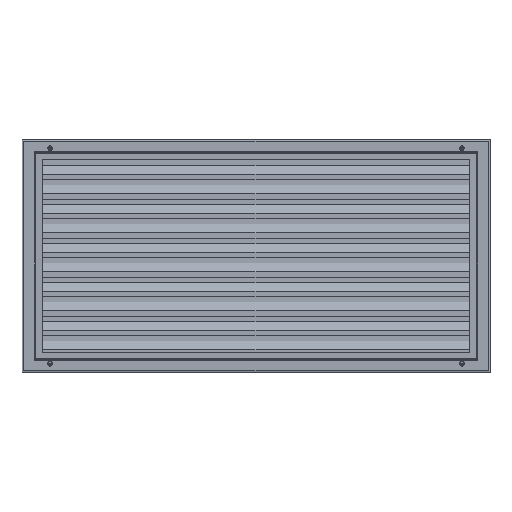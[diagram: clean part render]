
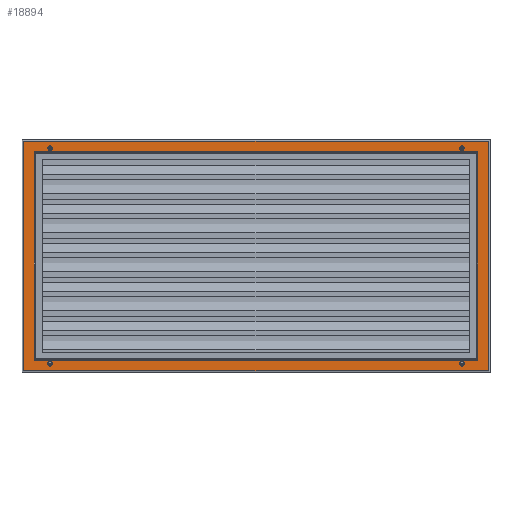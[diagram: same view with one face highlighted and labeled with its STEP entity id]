
A CAD part, top view. The second image highlights one B-rep face of the part: STEP entity #18894.
In plain terms, the highlighted planar face has unit normal (0, 0, 1).
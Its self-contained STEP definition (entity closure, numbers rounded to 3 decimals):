
#32846 = EDGE_CURVE ( 'NONE', #35079, #32294, #34247, .T. ) ;
#189 = VERTEX_POINT ( 'NONE', #26205 ) ;
#16799 = EDGE_LOOP ( 'NONE', ( #15483, #14177, #12872, #11586 ) ) ;
#478 = LINE ( 'NONE', #479, #480 ) ;
#479 = CARTESIAN_POINT ( 'NONE',  ( -284.5, 0., 14.5 ) ) ;
#480 = VECTOR ( 'NONE', #481, 1000. ) ;
#16852 = ORIENTED_EDGE ( 'NONE', *, *, #30664, .F. ) ;
#481 = DIRECTION ( 'NONE',  ( 0., -1., 0. ) ) ;
#33409 = CARTESIAN_POINT ( 'NONE',  ( 264., 135.2, 14.5 ) ) ;
#697 = EDGE_CURVE ( 'NONE', #2934, #7742, #26852, .T. ) ;
#17405 = ORIENTED_EDGE ( 'NONE', *, *, #27591, .F. ) ;
#1440 = CIRCLE ( 'NONE', #1441, 3. ) ;
#1441 = AXIS2_PLACEMENT_3D ( 'NONE', #1442, #1443, #1444 ) ;
#1442 = CARTESIAN_POINT ( 'NONE',  ( 264., -138.2, 14.5 ) ) ;
#1443 = DIRECTION ( 'NONE',  ( 0., 0., 1. ) ) ;
#1444 = DIRECTION ( 'NONE',  ( 0., -1., 0. ) ) ;
#34247 = CIRCLE ( 'NONE', #34248, 3. ) ;
#34248 = AXIS2_PLACEMENT_3D ( 'NONE', #34276, #34277, #34278 ) ;
#34276 = CARTESIAN_POINT ( 'NONE',  ( 264., 138.2, 14.5 ) ) ;
#34277 = DIRECTION ( 'NONE',  ( 0., 0., 1. ) ) ;
#34278 = DIRECTION ( 'NONE',  ( 0., -1., 0. ) ) ;
#1619 = ORIENTED_EDGE ( 'NONE', *, *, #697, .T. ) ;
#18292 = EDGE_LOOP ( 'NONE', ( #16852, #15620 ) ) ;
#35079 = VERTEX_POINT ( 'NONE', #38003 ) ;
#18894 = ADVANCED_FACE ( 'NONE', ( #10477, #10478, #10479, #10480, #10481, #10482 ), #10483, .T. ) ;
#35510 = VERTEX_POINT ( 'NONE', #38848 ) ;
#19137 = VERTEX_POINT ( 'NONE', #10901 ) ;
#2934 = VERTEX_POINT ( 'NONE', #30397 ) ;
#3070 = EDGE_CURVE ( 'NONE', #32294, #35079, #30682, .T. ) ;
#19704 = EDGE_CURVE ( 'NONE', #20622, #19137, #11815, .T. ) ;
#3491 = EDGE_CURVE ( 'NONE', #25481, #2934, #31302, .T. ) ;
#36403 = VERTEX_POINT ( 'NONE', #40333 ) ;
#20233 = CARTESIAN_POINT ( 'NONE',  ( -267., 138.2, 14.5 ) ) ;
#36937 = CARTESIAN_POINT ( 'NONE',  ( -298., 147.2, 14.5 ) ) ;
#36956 = EDGE_CURVE ( 'NONE', #39183, #36403, #41221, .T. ) ;
#20622 = VERTEX_POINT ( 'NONE', #13361 ) ;
#4397 = ORIENTED_EDGE ( 'NONE', *, *, #3491, .T. ) ;
#20972 = VERTEX_POINT ( 'NONE', #14203 ) ;
#37709 = CARTESIAN_POINT ( 'NONE',  ( 298., 147.2, 14.5 ) ) ;
#21354 = EDGE_CURVE ( 'NONE', #20972, #20622, #15111, .T. ) ;
#38003 = CARTESIAN_POINT ( 'NONE',  ( 264., 141.2, 14.5 ) ) ;
#38587 = LINE ( 'NONE', #38588, #38589 ) ;
#38588 = CARTESIAN_POINT ( 'NONE',  ( 0., 147.2, 14.5 ) ) ;
#38589 = VECTOR ( 'NONE', #38590, 1000. ) ;
#38590 = DIRECTION ( 'NONE',  ( -1., 0., 0. ) ) ;
#5893 = ORIENTED_EDGE ( 'NONE', *, *, #25856, .T. ) ;
#38848 = CARTESIAN_POINT ( 'NONE',  ( 264., -135.2, 14.5 ) ) ;
#38853 = EDGE_CURVE ( 'NONE', #36403, #39183, #44082, .T. ) ;
#39183 = VERTEX_POINT ( 'NONE', #44550 ) ;
#6860 = ORIENTED_EDGE ( 'NONE', *, *, #44187, .F. ) ;
#23350 = CARTESIAN_POINT ( 'NONE',  ( -298., -147.2, 14.5 ) ) ;
#23485 = VERTEX_POINT ( 'NONE', #20233 ) ;
#7184 = VERTEX_POINT ( 'NONE', #36937 ) ;
#7261 = CIRCLE ( 'NONE', #7262, 3. ) ;
#7262 = AXIS2_PLACEMENT_3D ( 'NONE', #7263, #7264, #7265 ) ;
#7263 = CARTESIAN_POINT ( 'NONE',  ( -264., 138.2, 14.5 ) ) ;
#7264 = DIRECTION ( 'NONE',  ( 0., 0., 1. ) ) ;
#7265 = DIRECTION ( 'NONE',  ( 1., 0., 0. ) ) ;
#40333 = CARTESIAN_POINT ( 'NONE',  ( -261., -138.2, 14.5 ) ) ;
#24028 = LINE ( 'NONE', #24029, #24030 ) ;
#24029 = CARTESIAN_POINT ( 'NONE',  ( -298., 0., 14.5 ) ) ;
#24030 = VECTOR ( 'NONE', #24031, 1000. ) ;
#24031 = DIRECTION ( 'NONE',  ( 0., -1., 0. ) ) ;
#7742 = VERTEX_POINT ( 'NONE', #37709 ) ;
#8174 = EDGE_LOOP ( 'NONE', ( #6860, #17405 ) ) ;
#40964 = CARTESIAN_POINT ( 'NONE',  ( -284.5, 133.7, 14.5 ) ) ;
#8318 = EDGE_CURVE ( 'NONE', #7742, #7184, #38587, .T. ) ;
#41221 = CIRCLE ( 'NONE', #41222, 3. ) ;
#41222 = AXIS2_PLACEMENT_3D ( 'NONE', #41223, #41224, #41225 ) ;
#41223 = CARTESIAN_POINT ( 'NONE',  ( -264., -138.2, 14.5 ) ) ;
#41224 = DIRECTION ( 'NONE',  ( 0., 0., 1. ) ) ;
#41225 = DIRECTION ( 'NONE',  ( 1., 0., 0. ) ) ;
#8797 = ORIENTED_EDGE ( 'NONE', *, *, #32846, .F. ) ;
#25321 = CARTESIAN_POINT ( 'NONE',  ( -261., 138.2, 14.5 ) ) ;
#25481 = VERTEX_POINT ( 'NONE', #23350 ) ;
#41915 = LINE ( 'NONE', #41916, #41917 ) ;
#41916 = CARTESIAN_POINT ( 'NONE',  ( 0., 133.7, 14.5 ) ) ;
#41917 = VECTOR ( 'NONE', #41918, 1000. ) ;
#41918 = DIRECTION ( 'NONE',  ( -1., 0., 0. ) ) ;
#9260 = ORIENTED_EDGE ( 'NONE', *, *, #8318, .T. ) ;
#25856 = EDGE_CURVE ( 'NONE', #7184, #25481, #24028, .T. ) ;
#25945 = CIRCLE ( 'NONE', #25946, 3. ) ;
#25946 = AXIS2_PLACEMENT_3D ( 'NONE', #25947, #25948, #25949 ) ;
#25947 = CARTESIAN_POINT ( 'NONE',  ( -264., 138.2, 14.5 ) ) ;
#25948 = DIRECTION ( 'NONE',  ( 0., 0., 1. ) ) ;
#25949 = DIRECTION ( 'NONE',  ( 1., 0., 0. ) ) ;
#9807 = VERTEX_POINT ( 'NONE', #40964 ) ;
#26205 = CARTESIAN_POINT ( 'NONE',  ( 264., -141.2, 14.5 ) ) ;
#10105 = ORIENTED_EDGE ( 'NONE', *, *, #3070, .F. ) ;
#10379 = EDGE_CURVE ( 'NONE', #19137, #9807, #41915, .T. ) ;
#10477 = FACE_BOUND ( 'NONE', #18292, .T. ) ;
#10478 = FACE_BOUND ( 'NONE', #15011, .T. ) ;
#10479 = FACE_BOUND ( 'NONE', #11398, .T. ) ;
#10480 = FACE_BOUND ( 'NONE', #8174, .T. ) ;
#26852 = LINE ( 'NONE', #26853, #26854 ) ;
#26853 = CARTESIAN_POINT ( 'NONE',  ( 298., 0., 14.5 ) ) ;
#26854 = VECTOR ( 'NONE', #26855, 1000. ) ;
#26855 = DIRECTION ( 'NONE',  ( 0., 1., 0. ) ) ;
#10481 = FACE_BOUND ( 'NONE', #16799, .T. ) ;
#10482 = FACE_OUTER_BOUND ( 'NONE', #10966, .T. ) ;
#10483 = PLANE ( 'NONE',  #10484 ) ;
#10484 = AXIS2_PLACEMENT_3D ( 'NONE', #10485, #10486, #10487 ) ;
#10485 = CARTESIAN_POINT ( 'NONE',  ( -309.92, -153.088, 14.5 ) ) ;
#10486 = DIRECTION ( 'NONE',  ( 0., 0., 1. ) ) ;
#10487 = DIRECTION ( 'NONE',  ( 1., 0., 0. ) ) ;
#27020 = VERTEX_POINT ( 'NONE', #25321 ) ;
#10901 = CARTESIAN_POINT ( 'NONE',  ( 284.5, 133.7, 14.5 ) ) ;
#10966 = EDGE_LOOP ( 'NONE', ( #9260, #5893, #4397, #1619 ) ) ;
#27591 = EDGE_CURVE ( 'NONE', #23485, #27020, #25945, .T. ) ;
#44082 = CIRCLE ( 'NONE', #44083, 3. ) ;
#44083 = AXIS2_PLACEMENT_3D ( 'NONE', #44084, #44085, #44086 ) ;
#44084 = CARTESIAN_POINT ( 'NONE',  ( -264., -138.2, 14.5 ) ) ;
#44085 = DIRECTION ( 'NONE',  ( 0., 0., 1. ) ) ;
#44086 = DIRECTION ( 'NONE',  ( 1., 0., 0. ) ) ;
#11398 = EDGE_LOOP ( 'NONE', ( #10105, #8797 ) ) ;
#44187 = EDGE_CURVE ( 'NONE', #27020, #23485, #7261, .T. ) ;
#11586 = ORIENTED_EDGE ( 'NONE', *, *, #12593, .F. ) ;
#44550 = CARTESIAN_POINT ( 'NONE',  ( -267., -138.2, 14.5 ) ) ;
#11815 = LINE ( 'NONE', #11816, #11817 ) ;
#11816 = CARTESIAN_POINT ( 'NONE',  ( 284.5, 0., 14.5 ) ) ;
#11817 = VECTOR ( 'NONE', #11818, 1000. ) ;
#11818 = DIRECTION ( 'NONE',  ( 0., 1., 0. ) ) ;
#11985 = ORIENTED_EDGE ( 'NONE', *, *, #36956, .F. ) ;
#12593 = EDGE_CURVE ( 'NONE', #9807, #20972, #478, .T. ) ;
#12872 = ORIENTED_EDGE ( 'NONE', *, *, #21354, .F. ) ;
#13201 = EDGE_CURVE ( 'NONE', #35510, #189, #1440, .T. ) ;
#13299 = ORIENTED_EDGE ( 'NONE', *, *, #38853, .F. ) ;
#13361 = CARTESIAN_POINT ( 'NONE',  ( 284.5, -133.7, 14.5 ) ) ;
#30397 = CARTESIAN_POINT ( 'NONE',  ( 298., -147.2, 14.5 ) ) ;
#14177 = ORIENTED_EDGE ( 'NONE', *, *, #19704, .F. ) ;
#14203 = CARTESIAN_POINT ( 'NONE',  ( -284.5, -133.7, 14.5 ) ) ;
#30664 = EDGE_CURVE ( 'NONE', #189, #35510, #30890, .T. ) ;
#30682 = CIRCLE ( 'NONE', #30683, 3. ) ;
#30683 = AXIS2_PLACEMENT_3D ( 'NONE', #30684, #30685, #30686 ) ;
#30684 = CARTESIAN_POINT ( 'NONE',  ( 264., 138.2, 14.5 ) ) ;
#30685 = DIRECTION ( 'NONE',  ( 0., 0., 1. ) ) ;
#30686 = DIRECTION ( 'NONE',  ( 0., -1., 0. ) ) ;
#30890 = CIRCLE ( 'NONE', #30891, 3. ) ;
#30891 = AXIS2_PLACEMENT_3D ( 'NONE', #30892, #30893, #30894 ) ;
#30892 = CARTESIAN_POINT ( 'NONE',  ( 264., -138.2, 14.5 ) ) ;
#30893 = DIRECTION ( 'NONE',  ( 0., 0., 1. ) ) ;
#30894 = DIRECTION ( 'NONE',  ( 0., -1., 0. ) ) ;
#31302 = LINE ( 'NONE', #31303, #31304 ) ;
#31303 = CARTESIAN_POINT ( 'NONE',  ( 0., -147.2, 14.5 ) ) ;
#31304 = VECTOR ( 'NONE', #31337, 1000. ) ;
#31337 = DIRECTION ( 'NONE',  ( 1., 0., 0. ) ) ;
#15011 = EDGE_LOOP ( 'NONE', ( #13299, #11985 ) ) ;
#15111 = LINE ( 'NONE', #15112, #15113 ) ;
#15112 = CARTESIAN_POINT ( 'NONE',  ( 0., -133.7, 14.5 ) ) ;
#15113 = VECTOR ( 'NONE', #15114, 1000. ) ;
#15114 = DIRECTION ( 'NONE',  ( 1., 0., 0. ) ) ;
#15483 = ORIENTED_EDGE ( 'NONE', *, *, #10379, .F. ) ;
#15620 = ORIENTED_EDGE ( 'NONE', *, *, #13201, .F. ) ;
#32294 = VERTEX_POINT ( 'NONE', #33409 ) ;
